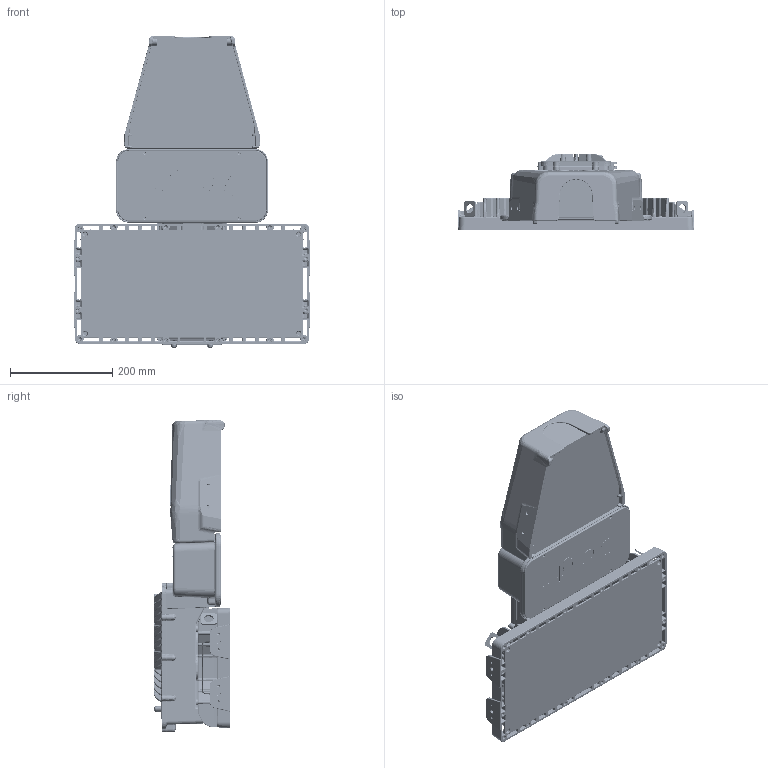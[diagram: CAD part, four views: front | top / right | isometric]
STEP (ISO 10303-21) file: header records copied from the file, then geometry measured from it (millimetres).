
FILE_DESCRIPTION((''),'2;1');
FILE_NAME('8F1X_MAST_ARM_PC_MARKETING_ASM','2024-08-22T12:14:33',('cwang'),(''),'CREO PARAMETRIC BY PTC INC, 2021304','CREO PARAMETRIC BY PTC INC, 2021304','');
FILE_SCHEMA(('CONFIG_CONTROL_DESIGN'));
Products named in the file (20): 0000690301; 0000690295_ASM; 0000690311; 0000690312; 0000690296_ASM; 0000690310; 0000690313; 0000690316; 0000690307; 0000690317; 0000690297_ASM; 0000690318; 0000690320; 0000690298_ASM; 0000690323; 0000690324; 0000690300_ASM; 0000690327; 0000690333; 8F1X_MAST_ARM_PC_MARKETING_ASM
Assembly tree (34 placements, depth 3):
  8F1X_MAST_ARM_PC_MARKETING_ASM
    0000690301
    0000690295_ASM
    0000690311
    0000690296_ASM
      0000690312
    0000690310
    0000690313
    0000690316  x3
    0000690307  x3
    0000690297_ASM
      0000690317
    0000690318  x2
    0000690298_ASM
      0000690320
    0000690323
    0000690300_ASM
      0000690324
    0000690327  x6
    0000690333  x6
Bounding box: 462.38 x 149.1 x 610.35 mm (x, y, z)
Volume: 12191425.3 mm3; surface area: 1414904.8 mm2
Topology: 23 solids, 201 shells, 14096 faces, 34424 edges, 20345 vertices
Faces by surface type: bspline 4716, cylinder 4206, plane 2352, torus 1387, cone 1141, sphere 278, extrusion 16
Entity records: 783552 total; most frequent: CARTESIAN_POINT 501238, ORIENTED_EDGE 64823, DIRECTION 49602, EDGE_CURVE 32832, AXIS2_PLACEMENT_3D 19774, VERTEX_POINT 19516, EDGE_LOOP 14080, FACE_OUTER_BOUND 13650
